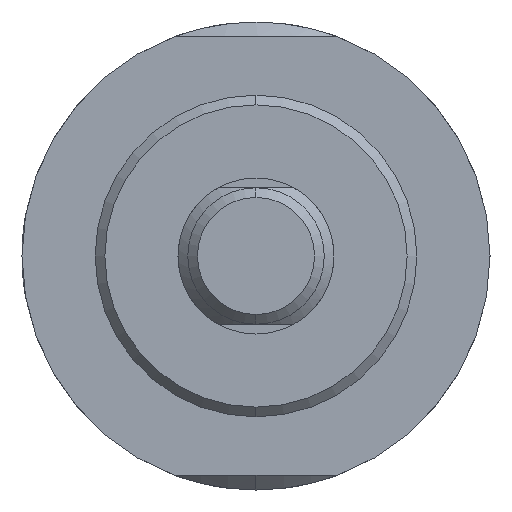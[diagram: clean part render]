
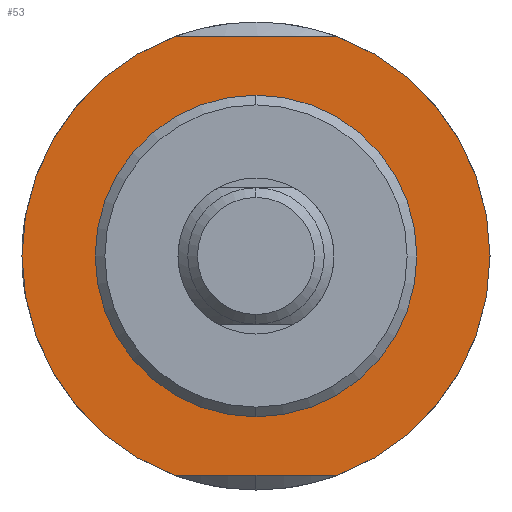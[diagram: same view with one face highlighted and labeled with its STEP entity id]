
A CAD part, left-side view. The second image highlights one B-rep face of the part: STEP entity #53.
In plain terms, the highlighted planar face has unit normal (-1, 0, 0).
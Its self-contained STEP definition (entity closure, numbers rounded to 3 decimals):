
#53 = ADVANCED_FACE ( 'NONE', ( #1059, #1788 ), #1878, .F. ) ;
#66 = EDGE_CURVE ( 'NONE', #307, #1672, #795, .T. ) ;
#92 = VERTEX_POINT ( 'NONE', #783 ) ;
#155 = AXIS2_PLACEMENT_3D ( 'NONE', #559, #1315, #1589 ) ;
#156 = CARTESIAN_POINT ( 'NONE',  ( 50., 0., -24. ) ) ;
#186 = DIRECTION ( 'NONE',  ( 0., 0., -1. ) ) ;
#191 = LINE ( 'NONE', #461, #1143 ) ;
#230 = CARTESIAN_POINT ( 'NONE',  ( 50., 15., 22.5 ) ) ;
#275 = EDGE_LOOP ( 'NONE', ( #1273, #371, #779, #994 ) ) ;
#307 = VERTEX_POINT ( 'NONE', #677 ) ;
#371 = ORIENTED_EDGE ( 'NONE', *, *, #546, .F. ) ;
#392 = EDGE_CURVE ( 'NONE', #1983, #92, #882, .T. ) ;
#433 = EDGE_CURVE ( 'NONE', #1871, #1517, #1620, .T. ) ;
#453 = CARTESIAN_POINT ( 'NONE',  ( 50., 0., 16.5 ) ) ;
#461 = CARTESIAN_POINT ( 'NONE',  ( 50., 15., -22.5 ) ) ;
#468 = CARTESIAN_POINT ( 'NONE',  ( 50., 0., 0. ) ) ;
#546 = EDGE_CURVE ( 'NONE', #307, #92, #191, .T. ) ;
#559 = CARTESIAN_POINT ( 'NONE',  ( 50., 0., 0. ) ) ;
#588 = DIRECTION ( 'NONE',  ( 0., 0., 1. ) ) ;
#601 = VECTOR ( 'NONE', #1580, 1000. ) ;
#677 = CARTESIAN_POINT ( 'NONE',  ( 50., -8.352, -22.5 ) ) ;
#751 = EDGE_CURVE ( 'NONE', #1983, #1672, #1186, .T. ) ;
#779 = ORIENTED_EDGE ( 'NONE', *, *, #66, .T. ) ;
#783 = CARTESIAN_POINT ( 'NONE',  ( 50., 8.352, -22.5 ) ) ;
#795 = CIRCLE ( 'NONE', #1193, 24. ) ;
#844 = CARTESIAN_POINT ( 'NONE',  ( 50., -8.352, 22.5 ) ) ;
#882 = CIRCLE ( 'NONE', #155, 24. ) ;
#925 = DIRECTION ( 'NONE',  ( -1., 0., 0. ) ) ;
#934 = DIRECTION ( 'NONE',  ( -1., 0., 0. ) ) ;
#943 = EDGE_LOOP ( 'NONE', ( #1292, #1724 ) ) ;
#963 = AXIS2_PLACEMENT_3D ( 'NONE', #1531, #925, #1423 ) ;
#994 = ORIENTED_EDGE ( 'NONE', *, *, #751, .F. ) ;
#1034 = DIRECTION ( 'NONE',  ( 0., 1., 0. ) ) ;
#1059 = FACE_BOUND ( 'NONE', #943, .T. ) ;
#1114 = AXIS2_PLACEMENT_3D ( 'NONE', #468, #1571, #588 ) ;
#1143 = VECTOR ( 'NONE', #1034, 1000. ) ;
#1155 = DIRECTION ( 'NONE',  ( 1., 0., 0. ) ) ;
#1184 = DIRECTION ( 'NONE',  ( 0., 0., 1. ) ) ;
#1186 = LINE ( 'NONE', #230, #601 ) ;
#1193 = AXIS2_PLACEMENT_3D ( 'NONE', #1267, #934, #1184 ) ;
#1199 = EDGE_CURVE ( 'NONE', #1517, #1871, #1560, .T. ) ;
#1267 = CARTESIAN_POINT ( 'NONE',  ( 50., 0., 0. ) ) ;
#1273 = ORIENTED_EDGE ( 'NONE', *, *, #392, .T. ) ;
#1292 = ORIENTED_EDGE ( 'NONE', *, *, #1199, .F. ) ;
#1315 = DIRECTION ( 'NONE',  ( -1., 0., 0. ) ) ;
#1368 = CARTESIAN_POINT ( 'NONE',  ( 50., 8.352, 22.5 ) ) ;
#1423 = DIRECTION ( 'NONE',  ( 0., 0., 1. ) ) ;
#1517 = VERTEX_POINT ( 'NONE', #453 ) ;
#1531 = CARTESIAN_POINT ( 'NONE',  ( 50., 0., 0. ) ) ;
#1560 = CIRCLE ( 'NONE', #1114, 16.5 ) ;
#1571 = DIRECTION ( 'NONE',  ( -1., 0., 0. ) ) ;
#1580 = DIRECTION ( 'NONE',  ( 0., -1., 0. ) ) ;
#1589 = DIRECTION ( 'NONE',  ( 0., 0., 1. ) ) ;
#1620 = CIRCLE ( 'NONE', #963, 16.5 ) ;
#1672 = VERTEX_POINT ( 'NONE', #844 ) ;
#1700 = AXIS2_PLACEMENT_3D ( 'NONE', #156, #1155, #186 ) ;
#1724 = ORIENTED_EDGE ( 'NONE', *, *, #433, .F. ) ;
#1788 = FACE_OUTER_BOUND ( 'NONE', #275, .T. ) ;
#1871 = VERTEX_POINT ( 'NONE', #1953 ) ;
#1878 = PLANE ( 'NONE',  #1700 ) ;
#1953 = CARTESIAN_POINT ( 'NONE',  ( 50., 0., -16.5 ) ) ;
#1983 = VERTEX_POINT ( 'NONE', #1368 ) ;
